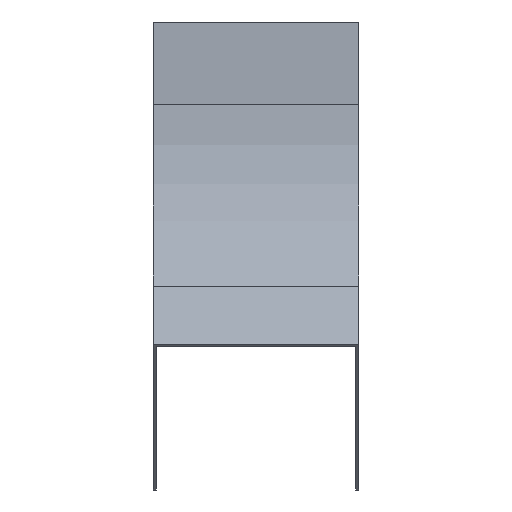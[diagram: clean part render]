
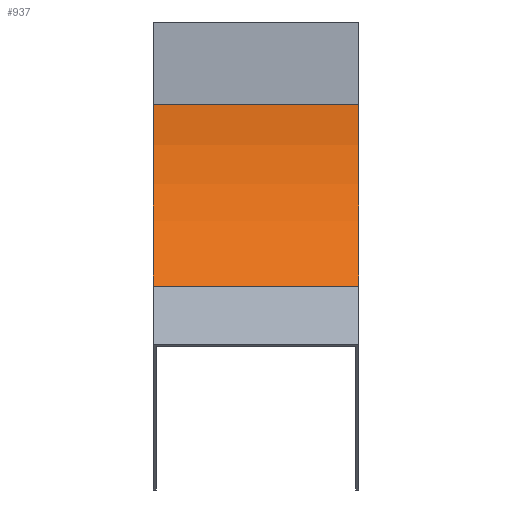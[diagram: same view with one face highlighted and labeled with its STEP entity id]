
A CAD part, front view. The second image highlights one B-rep face of the part: STEP entity #937.
In plain terms, the highlighted cylindrical face has radius 125 mm (diameter 250 mm), a partial arc.
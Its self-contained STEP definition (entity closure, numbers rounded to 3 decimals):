
#34 = CARTESIAN_POINT ( 'NONE',  ( 50., 0., -40. ) ) ;
#94 = CARTESIAN_POINT ( 'NONE',  ( 50., 0., -40. ) ) ;
#127 = DIRECTION ( 'NONE',  ( 0., 0., 1. ) ) ;
#147 = AXIS2_PLACEMENT_3D ( 'NONE', #1131, #218, #864 ) ;
#218 = DIRECTION ( 'NONE',  ( -1., 0., 0. ) ) ;
#316 = ORIENTED_EDGE ( 'NONE', *, *, #1160, .F. ) ;
#384 = CARTESIAN_POINT ( 'NONE',  ( -50., -36.612, -128.388 ) ) ;
#403 = DIRECTION ( 'NONE',  ( -1., 0., 0. ) ) ;
#436 = VECTOR ( 'NONE', #776, 1000. ) ;
#445 = ORIENTED_EDGE ( 'NONE', *, *, #608, .F. ) ;
#452 = DIRECTION ( 'NONE',  ( -1., 0., 0. ) ) ;
#547 = EDGE_CURVE ( 'NONE', #1621, #554, #1252, .T. ) ;
#554 = VERTEX_POINT ( 'NONE', #571 ) ;
#571 = CARTESIAN_POINT ( 'NONE',  ( -50., 0., -40. ) ) ;
#608 = EDGE_CURVE ( 'NONE', #793, #762, #1272, .T. ) ;
#627 = CARTESIAN_POINT ( 'NONE',  ( 50., -36.612, -128.388 ) ) ;
#761 = CYLINDRICAL_SURFACE ( 'NONE', #823, 125. ) ;
#762 = VERTEX_POINT ( 'NONE', #384 ) ;
#763 = ORIENTED_EDGE ( 'NONE', *, *, #547, .T. ) ;
#776 = DIRECTION ( 'NONE',  ( -1., 0., 0. ) ) ;
#793 = VERTEX_POINT ( 'NONE', #884 ) ;
#806 = EDGE_CURVE ( 'NONE', #554, #762, #1062, .T. ) ;
#823 = AXIS2_PLACEMENT_3D ( 'NONE', #1675, #403, #127 ) ;
#864 = DIRECTION ( 'NONE',  ( 0., 0., 1. ) ) ;
#884 = CARTESIAN_POINT ( 'NONE',  ( 50., -36.612, -128.388 ) ) ;
#937 = ADVANCED_FACE ( 'NONE', ( #1290 ), #761, .F. ) ;
#956 = CIRCLE ( 'NONE', #1156, 125. ) ;
#970 = DIRECTION ( 'NONE',  ( 0., 0., 1. ) ) ;
#1062 = CIRCLE ( 'NONE', #147, 125. ) ;
#1072 = CARTESIAN_POINT ( 'NONE',  ( 50., -125., -40. ) ) ;
#1125 = DIRECTION ( 'NONE',  ( -1., 0., 0. ) ) ;
#1131 = CARTESIAN_POINT ( 'NONE',  ( -50., -125., -40. ) ) ;
#1156 = AXIS2_PLACEMENT_3D ( 'NONE', #1072, #452, #970 ) ;
#1160 = EDGE_CURVE ( 'NONE', #1621, #793, #956, .T. ) ;
#1183 = EDGE_LOOP ( 'NONE', ( #1308, #445, #316, #763 ) ) ;
#1252 = LINE ( 'NONE', #94, #1253 ) ;
#1253 = VECTOR ( 'NONE', #1125, 1000. ) ;
#1272 = LINE ( 'NONE', #627, #436 ) ;
#1290 = FACE_OUTER_BOUND ( 'NONE', #1183, .T. ) ;
#1308 = ORIENTED_EDGE ( 'NONE', *, *, #806, .T. ) ;
#1621 = VERTEX_POINT ( 'NONE', #34 ) ;
#1675 = CARTESIAN_POINT ( 'NONE',  ( 50., -125., -40. ) ) ;
